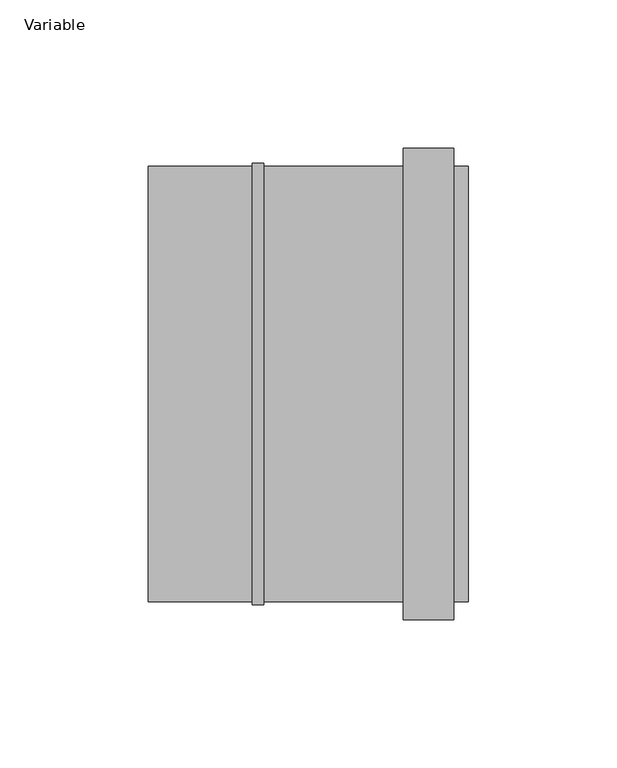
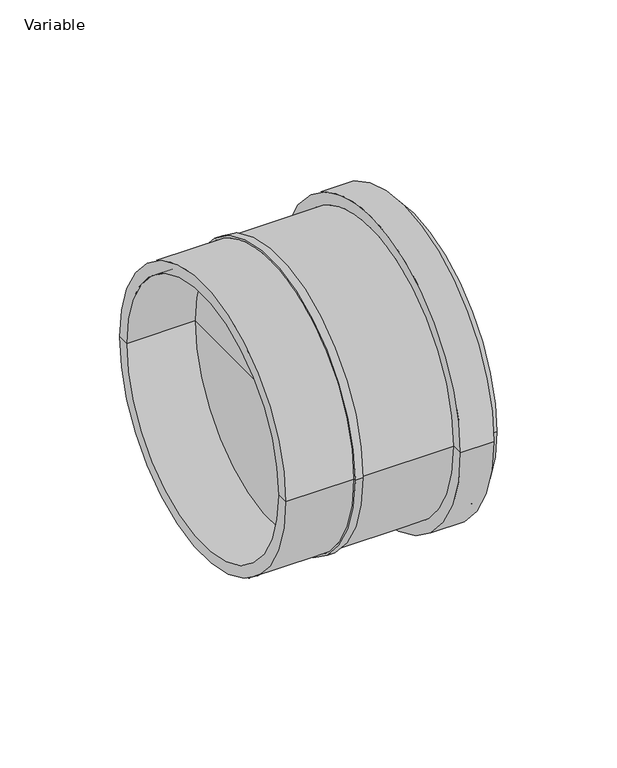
"""IFC4 building model written with IfcOpenShell, lengths in millimetres: pipe fitting geometry, AliaxisFR_Friaphon_MixedCoupling_FR : Variable."""

from ifc_helpers import new_model, si_unit, frame, origin, place, context, project, spatial, polyline, circle_curve, source, transform, mapped, element, save
from ifc_brep_helpers import plane_surface, cylinder_surface, revolved_surface, advanced_brep


def variable_6a86733a(model_context):
    return source(origin(), model_context, "Body", "AdvancedBrep", [
        advanced_brep(
        [(71.5, -73.5, 0.0), (71.5, 73.5, 0.0), (71.5, 67.5, 0.0), (71.5, -67.5, 0.0), (66.5, -73.5, 0.0), (66.5, 73.5, 0.0), (66.5, -79.5, 0.0), (66.5, 79.5, 0.0), (49.5, -79.5, 0.0), (49.5, 79.5, 0.0), (49.5, -73.5, 0.0), (49.5, 73.5, 0.0), (2.5, -73.5, 0.0), (2.5, 73.5, 0.0), (-36.5, -67.5, 0.0), (-36.5, 67.5, 0.0), (-36.5, 73.5, 0.0), (-36.5, -73.5, 0.0), (-1.5, -67.5, 0.0), (-1.5, 67.5, 0.0), (-1.5, 0.0, 0.0), (1.5, 67.5, 0.0), (1.5, -67.5, 0.0), (2.5, -74.5, 0.0), (2.5, 74.5, 0.0), (-1.5, -74.5, 0.0), (-1.5, 74.5, 0.0), (-1.5, -73.5, 0.0), (-1.5, 73.5, 0.0), (1.5, 0.0, 0.0)],
        [
            (0, 1, circle_curve(frame((71.5, 0.0, 0.0), z_axis=(1.0, 0.0, 0.0), x_axis=(0.0, 1.0, 0.0)), 73.5)),
            (1, 2),
            (2, 3, circle_curve(frame((71.5, 0.0, 0.0), z_axis=(-1.0, 0.0, 0.0), x_axis=(0.0, 1.0, 0.0)), 67.5)),
            (3, 0),
            (1, 0, circle_curve(frame((71.5, 0.0, 0.0), z_axis=(1.0, 0.0, 0.0), x_axis=(0.0, 1.0, 0.0)), 73.5)),
            (3, 2, circle_curve(frame((71.5, 0.0, 0.0), z_axis=(-1.0, 0.0, 0.0), x_axis=(0.0, 1.0, 0.0)), 67.5)),
            (4, 5, circle_curve(frame((66.5, 0.0, 0.0), z_axis=(1.0, 0.0, 0.0), x_axis=(0.0, 1.0, 0.0)), 73.5)),
            (5, 1),
            (0, 4),
            (5, 4, circle_curve(frame((66.5, 0.0, 0.0), z_axis=(1.0, 0.0, 0.0), x_axis=(0.0, 1.0, 0.0)), 73.5)),
            (6, 7, circle_curve(frame((66.5, 0.0, 0.0), z_axis=(1.0, 0.0, 0.0), x_axis=(0.0, 1.0, 0.0)), 79.5)),
            (7, 5),
            (4, 6),
            (7, 6, circle_curve(frame((66.5, 0.0, 0.0), z_axis=(1.0, 0.0, 0.0), x_axis=(0.0, 1.0, 0.0)), 79.5)),
            (8, 9, circle_curve(frame((49.5, 0.0, 0.0), z_axis=(1.0, 0.0, 0.0), x_axis=(0.0, 1.0, 0.0)), 79.5)),
            (9, 7),
            (6, 8),
            (9, 8, circle_curve(frame((49.5, 0.0, 0.0), z_axis=(1.0, 0.0, 0.0), x_axis=(0.0, 1.0, 0.0)), 79.5)),
            (10, 11, circle_curve(frame((49.5, 0.0, 0.0), z_axis=(1.0, 0.0, 0.0), x_axis=(0.0, 1.0, 0.0)), 73.5)),
            (11, 9),
            (8, 10),
            (11, 10, circle_curve(frame((49.5, 0.0, 0.0), z_axis=(1.0, 0.0, 0.0), x_axis=(0.0, 1.0, 0.0)), 73.5)),
            (12, 13, circle_curve(frame((2.5, 0.0, 0.0), z_axis=(1.0, 0.0, 0.0), x_axis=(0.0, 1.0, 0.0)), 73.5)),
            (13, 11),
            (10, 12),
            (13, 12, circle_curve(frame((2.5, 0.0, 0.0), z_axis=(1.0, 0.0, 0.0), x_axis=(0.0, 1.0, 0.0)), 73.5)),
            (14, 15, circle_curve(frame((-36.5, 0.0, 0.0), z_axis=(1.0, 0.0, 0.0), x_axis=(0.0, 1.0, 0.0)), 67.5)),
            (15, 16),
            (16, 17, circle_curve(frame((-36.5, 0.0, 0.0), z_axis=(-1.0, 0.0, 0.0), x_axis=(0.0, 1.0, 0.0)), 73.5)),
            (17, 14),
            (15, 14, circle_curve(frame((-36.5, 0.0, 0.0), z_axis=(1.0, 0.0, 0.0), x_axis=(0.0, 1.0, 0.0)), 67.5)),
            (17, 16, circle_curve(frame((-36.5, 0.0, 0.0), z_axis=(-1.0, 0.0, 0.0), x_axis=(0.0, 1.0, 0.0)), 73.5)),
            (18, 19, circle_curve(frame((-1.5, 0.0, 0.0), z_axis=(1.0, 0.0, 0.0), x_axis=(0.0, 1.0, 0.0)), 67.5)),
            (19, 15),
            (14, 18),
            (19, 18, circle_curve(frame((-1.5, 0.0, 0.0), z_axis=(1.0, 0.0, 0.0), x_axis=(0.0, 1.0, 0.0)), 67.5)),
            (20, 19),
            (18, 20),
            (2, 21),
            (21, 22, circle_curve(frame((1.5, 0.0, 0.0), z_axis=(-1.0, 0.0, 0.0), x_axis=(0.0, 1.0, 0.0)), 67.5)),
            (22, 3),
            (22, 21, circle_curve(frame((1.5, 0.0, 0.0), z_axis=(-1.0, 0.0, 0.0), x_axis=(0.0, 1.0, 0.0)), 67.5)),
            (23, 24, circle_curve(frame((2.5, 0.0, 0.0), z_axis=(1.0, 0.0, 0.0), x_axis=(0.0, 1.0, 0.0)), 74.5)),
            (24, 13),
            (12, 23),
            (24, 23, circle_curve(frame((2.5, 0.0, 0.0), z_axis=(1.0, 0.0, 0.0), x_axis=(0.0, 1.0, 0.0)), 74.5)),
            (25, 26, circle_curve(frame((-1.5, 0.0, 0.0), z_axis=(1.0, 0.0, 0.0), x_axis=(0.0, 1.0, 0.0)), 74.5)),
            (26, 24),
            (23, 25),
            (26, 25, circle_curve(frame((-1.5, 0.0, 0.0), z_axis=(1.0, 0.0, 0.0), x_axis=(0.0, 1.0, 0.0)), 74.5)),
            (27, 28, circle_curve(frame((-1.5, 0.0, 0.0), z_axis=(1.0, 0.0, 0.0), x_axis=(0.0, 1.0, 0.0)), 73.5)),
            (28, 26),
            (25, 27),
            (28, 27, circle_curve(frame((-1.5, 0.0, 0.0), z_axis=(1.0, 0.0, 0.0), x_axis=(0.0, 1.0, 0.0)), 73.5)),
            (16, 28),
            (27, 17),
            (21, 29),
            (29, 22),
        ],
        [
            plane_surface(frame((71.5, 0.0, 0.0), z_axis=(1.0, 0.0, 0.0), x_axis=(0.0, 1.0, 0.0))),
            cylinder_surface(frame((2019.5, 0.0, 0.0), z_axis=(-1.0, 0.0, 0.0), x_axis=(0.0, 1.0, 0.0)), 73.5),
            plane_surface(frame((66.5, 0.0, 0.0), z_axis=(1.0, 0.0, 0.0), x_axis=(0.0, 1.0, 0.0))),
            cylinder_surface(frame((2019.5, 0.0, 0.0), z_axis=(-1.0, 0.0, 0.0), x_axis=(0.0, 1.0, 0.0)), 79.5),
            plane_surface(frame((49.5, 0.0, 0.0), z_axis=(-1.0, 0.0, 0.0), x_axis=(0.0, 1.0, 0.0))),
            plane_surface(frame((-36.5, 0.0, 0.0), z_axis=(-1.0, 0.0, 0.0), x_axis=(0.0, 1.0, 0.0))),
            revolved_surface(polyline([(-36.5, 67.5, 0.0), (-1.5, 67.5, 0.0)]), (2019.5, 0.0, 0.0), (-1.0, 0.0, 0.0)),
            plane_surface(frame((-1.5, 0.0, 0.0), z_axis=(-1.0, 0.0, 0.0), x_axis=(0.0, 1.0, 0.0))),
            revolved_surface(polyline([(1.5, 67.5, 0.0), (71.5, 67.5, 0.0)]), (2019.5, 0.0, 0.0), (-1.0, 0.0, 0.0)),
            plane_surface(frame((2.5, 0.0, 0.0), z_axis=(1.0, 0.0, 0.0), x_axis=(0.0, 1.0, 0.0))),
            cylinder_surface(frame((2019.5, 0.0, 0.0), z_axis=(-1.0, 0.0, 0.0), x_axis=(0.0, 1.0, 0.0)), 74.5),
            plane_surface(frame((1.5, 0.0, 0.0), z_axis=(1.0, 0.0, 0.0), x_axis=(0.0, 1.0, 0.0))),
        ],
        [
            (0, [[1, 2, 3, 4]]),
            (0, [[5, -4, 6, -2]]),
            (1, [[7, 8, -1, 9]]),
            (1, [[10, -9, -5, -8]]),
            (2, [[11, 12, -7, 13]]),
            (2, [[14, -13, -10, -12]]),
            (3, [[15, 16, -11, 17]]),
            (3, [[18, -17, -14, -16]]),
            (4, [[19, 20, -15, 21]]),
            (4, [[22, -21, -18, -20]]),
            (1, [[23, 24, -19, 25]]),
            (1, [[26, -25, -22, -24]]),
            (5, [[27, 28, 29, 30]]),
            (5, [[31, -30, 32, -28]]),
            (6, [[33, 34, -27, 35]]),
            (6, [[36, -35, -31, -34]]),
            (7, [[37, -33, 38]]),
            (7, [[-38, -36, -37]]),
            (8, [[-3, 39, 40, 41]]),
            (8, [[-6, -41, 42, -39]]),
            (9, [[43, 44, -23, 45]]),
            (9, [[46, -45, -26, -44]]),
            (10, [[47, 48, -43, 49]]),
            (10, [[50, -49, -46, -48]]),
            (7, [[51, 52, -47, 53]]),
            (7, [[54, -53, -50, -52]]),
            (1, [[-29, 55, -51, 56]]),
            (1, [[-32, -56, -54, -55]]),
            (11, [[-40, 57, 58]]),
            (11, [[-42, -58, -57]]),
        ],
    ),
    ])


if __name__ == "__main__":
    model = new_model("IFC4")
    model_context = context("Model", 3, world=origin())
    ifc_project = project(units=[si_unit("LENGTHUNIT", "METRE", prefix="MILLI")], contexts=[model_context])
    site = spatial("IfcSite", under=ifc_project)
    building = spatial("IfcBuilding", under=site)
    placement = place(None, origin())
    variable_shape = variable_6a86733a(model_context)
    element("IfcPipeFitting", 1, ObjectType="AliaxisFR_Friaphon_MixedCoupling_FR : Variable", at=placement, inside=building, context=model_context, shape_type="MappedRepresentation", body=[
        mapped(variable_shape, transform((0.0, 0.0, 0.0), x_axis=(1.0, 0.0, 0.0), y_axis=(0.0, 1.0, 0.0), z_axis=(0.0, 0.0, 1.0))),
    ])
    save(model, "model.ifc")
